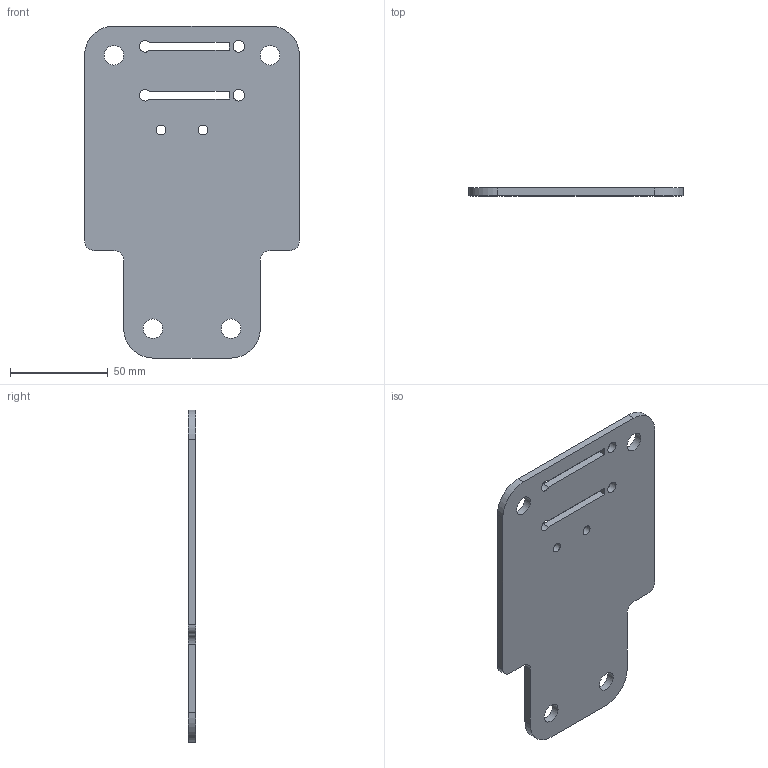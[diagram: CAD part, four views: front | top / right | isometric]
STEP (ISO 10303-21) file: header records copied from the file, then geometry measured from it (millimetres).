
FILE_DESCRIPTION(/* description */ (''),/* implementation_level */ '2;1');
FILE_NAME(/* name */ 'C:\Users\ASUS\OneDrive - Universidad de Antioquia\2024-1\Robótica\Proyecto\CAD\op1\ImpresionAgusto\Base2.stp',/* time_stamp */ '2024-05-08T17:40:51-05:00',/* author */ ('Martin'),/* organization */ (''),/* preprocessor_version */ 'ST-DEVELOPER v18.1',/* originating_system */ 'Autodesk Inventor 2021',/* authorisation */ '');
FILE_SCHEMA (('AUTOMOTIVE_DESIGN { 1 0 10303 214 3 1 1 }'));
Length unit declared in the file: millimetre
Products named in the file (1): Base2
Bounding box: 110 x 4 x 170 mm (x, y, z)
Volume: 62073.6 mm3; surface area: 34718.6 mm2
Topology: 1 solids, 1 shells, 34 faces, 108 edges, 76 vertices
Faces by surface type: cylinder 18, plane 16
Full cylindrical faces by diameter (mm): 5 x2, 6 x2, 10 x4
Entity records: 1336 total; most frequent: DIRECTION 226, CARTESIAN_POINT 219, ORIENTED_EDGE 216, EDGE_CURVE 108, AXIS2_PLACEMENT_3D 83, VERTEX_POINT 76, LINE 60, VECTOR 60
